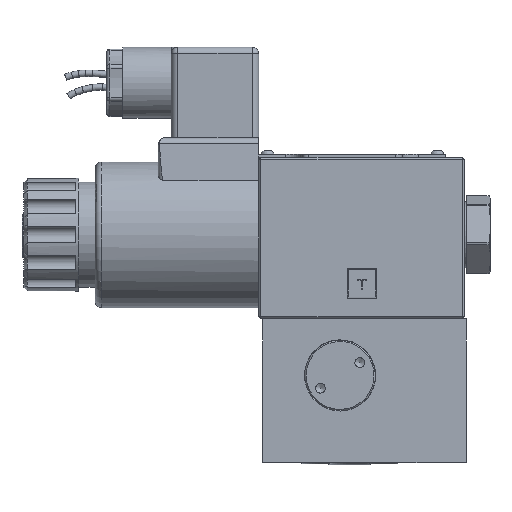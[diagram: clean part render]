
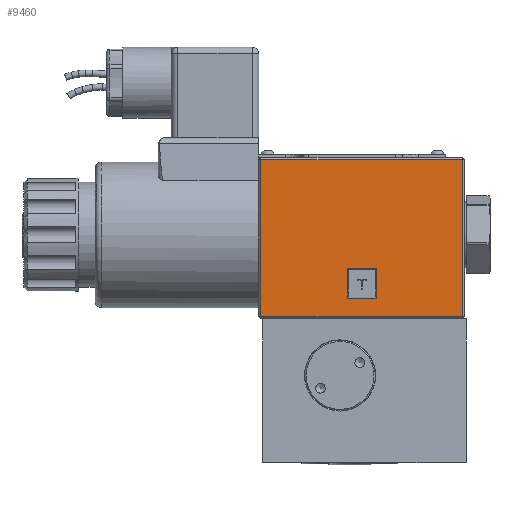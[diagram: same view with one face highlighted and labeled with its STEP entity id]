
A CAD part, front view. The second image highlights one B-rep face of the part: STEP entity #9460.
In plain terms, the highlighted planar face has unit normal (0, -1, 0).
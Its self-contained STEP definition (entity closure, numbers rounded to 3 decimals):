
#897=PLANE('',#11542);
#1727=EDGE_LOOP('',(#3284,#3285,#3286,#3287));
#1728=EDGE_LOOP('',(#3288,#3289,#3290,#3291));
#3284=ORIENTED_EDGE('',*,*,#5844,.T.);
#3285=ORIENTED_EDGE('',*,*,#5845,.T.);
#3286=ORIENTED_EDGE('',*,*,#5846,.T.);
#3287=ORIENTED_EDGE('',*,*,#5847,.T.);
#3288=ORIENTED_EDGE('',*,*,#5848,.T.);
#3289=ORIENTED_EDGE('',*,*,#5849,.T.);
#3290=ORIENTED_EDGE('',*,*,#5850,.T.);
#3291=ORIENTED_EDGE('',*,*,#5851,.T.);
#5844=EDGE_CURVE('',#10643,#10644,#7140,.T.);
#5845=EDGE_CURVE('',#10644,#10645,#7141,.T.);
#5846=EDGE_CURVE('',#10645,#10646,#7142,.T.);
#5847=EDGE_CURVE('',#10646,#10643,#7143,.T.);
#5848=EDGE_CURVE('',#10647,#10648,#7144,.T.);
#5849=EDGE_CURVE('',#10648,#10649,#7145,.T.);
#5850=EDGE_CURVE('',#10649,#10650,#7146,.T.);
#5851=EDGE_CURVE('',#10650,#10647,#7147,.T.);
#7140=LINE('',#15920,#7715);
#7141=LINE('',#15923,#7716);
#7142=LINE('',#15925,#7717);
#7143=LINE('',#15927,#7718);
#7144=LINE('',#15928,#7719);
#7145=LINE('',#15931,#7720);
#7146=LINE('',#15933,#7721);
#7147=LINE('',#15935,#7722);
#7715=VECTOR('',#12941,1.);
#7716=VECTOR('',#12942,1.);
#7717=VECTOR('',#12943,1.);
#7718=VECTOR('',#12944,1.);
#7719=VECTOR('',#12945,1.);
#7720=VECTOR('',#12946,1.);
#7721=VECTOR('',#12947,1.);
#7722=VECTOR('',#12948,1.);
#9460=ADVANCED_FACE('',(#10168,#10169),#897,.T.);
#10168=FACE_BOUND('',#1727,.T.);
#10169=FACE_BOUND('',#1728,.T.);
#10643=VERTEX_POINT('',#15921);
#10644=VERTEX_POINT('',#15922);
#10645=VERTEX_POINT('',#15924);
#10646=VERTEX_POINT('',#15926);
#10647=VERTEX_POINT('',#15929);
#10648=VERTEX_POINT('',#15930);
#10649=VERTEX_POINT('',#15932);
#10650=VERTEX_POINT('',#15934);
#11542=AXIS2_PLACEMENT_3D('',#15936,#12949,#12950);
#12941=DIRECTION('',(0.,0.,1.));
#12942=DIRECTION('',(-1.,0.,0.));
#12943=DIRECTION('',(0.,0.,-1.));
#12944=DIRECTION('',(1.,0.,0.));
#12945=DIRECTION('',(1.,0.,0.));
#12946=DIRECTION('',(0.,0.,-1.));
#12947=DIRECTION('',(-1.,0.,0.));
#12948=DIRECTION('',(0.,0.,1.));
#12949=DIRECTION('',(0.,-1.,0.));
#12950=DIRECTION('',(0.,0.,1.));
#15920=CARTESIAN_POINT('',(325.43,45.174,17.5));
#15921=CARTESIAN_POINT('',(325.43,45.174,18.2));
#15922=CARTESIAN_POINT('',(325.43,45.174,66.8));
#15923=CARTESIAN_POINT('',(262.43,45.174,66.8));
#15924=CARTESIAN_POINT('',(263.13,45.174,66.8));
#15925=CARTESIAN_POINT('',(263.13,45.174,17.5));
#15926=CARTESIAN_POINT('',(263.13,45.174,18.2));
#15927=CARTESIAN_POINT('',(246.43,45.174,18.2));
#15928=CARTESIAN_POINT('',(294.43,45.174,33.059));
#15929=CARTESIAN_POINT('',(289.871,45.174,33.059));
#15930=CARTESIAN_POINT('',(298.989,45.174,33.059));
#15931=CARTESIAN_POINT('',(298.989,45.174,42.5));
#15932=CARTESIAN_POINT('',(298.989,45.174,23.941));
#15933=CARTESIAN_POINT('',(294.43,45.174,23.941));
#15934=CARTESIAN_POINT('',(289.871,45.174,23.941));
#15935=CARTESIAN_POINT('',(289.871,45.174,42.5));
#15936=CARTESIAN_POINT('',(246.43,45.174,17.5));
